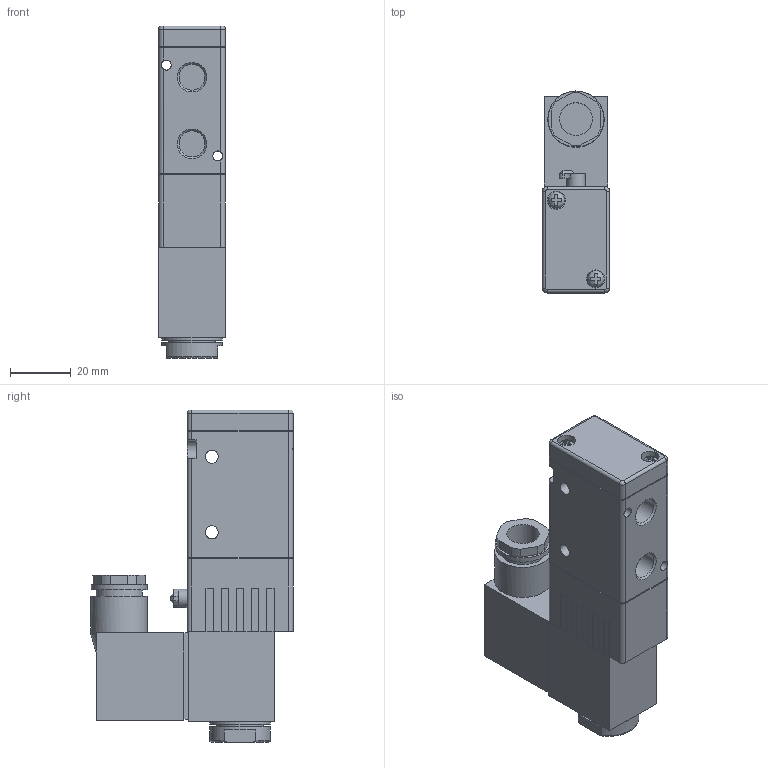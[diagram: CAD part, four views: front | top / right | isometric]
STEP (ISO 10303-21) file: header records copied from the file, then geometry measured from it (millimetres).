
FILE_DESCRIPTION(/* description */ ('STEP AP214'),/* implementation_level */ '2;1');
FILE_NAME(/* name */ '86-MV-3-18-311-Mxx.stp',/* time_stamp */ '2025-10-08T08:34:08+02:00',/* author */ ('Tschernatsch'),/* organization */ ('CADENAS'),/* preprocessor_version */ 'ST-DEVELOPER v20',/* originating_system */ 'Autodesk Inventor 2024',/* authorisation */ ' ');
FILE_SCHEMA (('AUTOMOTIVE_DESIGN { 1 0 10303 214 3 1 1 }'));
Length unit declared in the file: millimetre
Products named in the file (1): J3V210-06NC-DC24V
Bounding box: 22 x 66.7 x 109.6 mm (x, y, z)
Volume: 94788.3 mm3; surface area: 20703.2 mm2
Topology: 1 solids, 1 shells, 257 faces, 653 edges, 411 vertices
Faces by surface type: plane 182, cylinder 49, cone 18, bspline 6, torus 2
Full cylindrical faces by diameter (mm): 3.3 x2, 4.3 x2, 5.5 x2, 6 x3, 8.566 x3, 10.8 x1, 15.2 x2, 18.4 x1, 18.6 x1, 20 x2
Entity records: 8229 total; most frequent: CARTESIAN_POINT 1682, ORIENTED_EDGE 1306, DIRECTION 1259, EDGE_CURVE 653, LINE 471, VECTOR 471, VERTEX_POINT 411, AXIS2_PLACEMENT_3D 394
